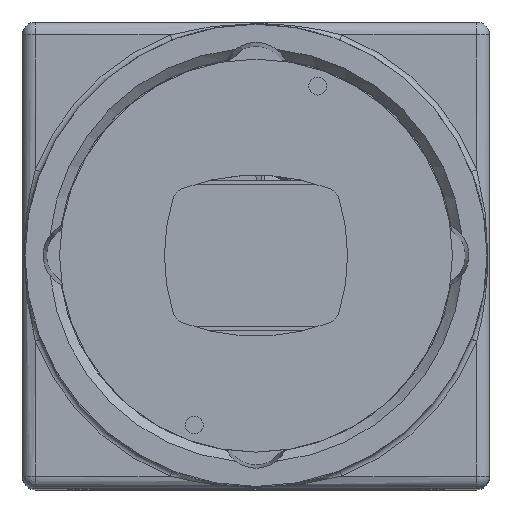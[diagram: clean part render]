
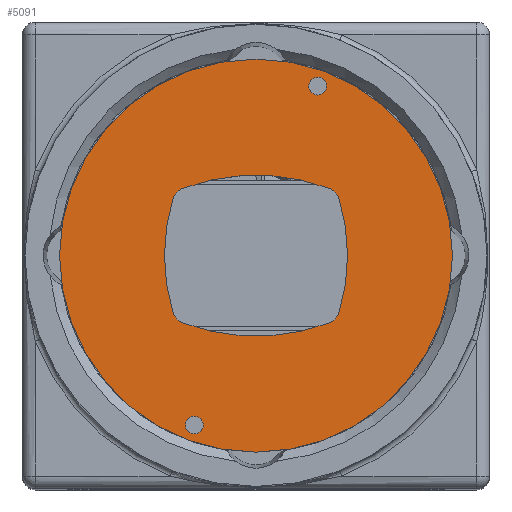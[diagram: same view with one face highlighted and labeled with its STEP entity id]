
A CAD part, top view. The second image highlights one B-rep face of the part: STEP entity #5091.
In plain terms, the highlighted planar face has unit normal (0, 0, 1).
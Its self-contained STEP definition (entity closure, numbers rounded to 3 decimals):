
#5091 = ADVANCED_FACE( '', ( #11079, #11080, #11081, #11082 ), #11083, .F. );
#11079 = FACE_BOUND( '', #20182, .T. );
#11080 = FACE_BOUND( '', #20183, .T. );
#11081 = FACE_BOUND( '', #20184, .T. );
#11082 = FACE_OUTER_BOUND( '', #20185, .T. );
#11083 = PLANE( '', #20186 );
#20182 = EDGE_LOOP( '', ( #32739 ) );
#20183 = EDGE_LOOP( '', ( #32740 ) );
#20184 = EDGE_LOOP( '', ( #32741, #32742, #32743, #32744, #32745, #32746, #32747, #32748 ) );
#20185 = EDGE_LOOP( '', ( #32749 ) );
#20186 = AXIS2_PLACEMENT_3D( '', #32750, #32751, #32752 );
#32739 = ORIENTED_EDGE( '', *, *, #39884, .T. );
#32740 = ORIENTED_EDGE( '', *, *, #40069, .T. );
#32741 = ORIENTED_EDGE( '', *, *, #38058, .T. );
#32742 = ORIENTED_EDGE( '', *, *, #38541, .T. );
#32743 = ORIENTED_EDGE( '', *, *, #37720, .T. );
#32744 = ORIENTED_EDGE( '', *, *, #38357, .T. );
#32745 = ORIENTED_EDGE( '', *, *, #39161, .T. );
#32746 = ORIENTED_EDGE( '', *, *, #40070, .T. );
#32747 = ORIENTED_EDGE( '', *, *, #40071, .T. );
#32748 = ORIENTED_EDGE( '', *, *, #40072, .T. );
#32749 = ORIENTED_EDGE( '', *, *, #39275, .F. );
#32750 = CARTESIAN_POINT( '', ( 1.907, 5.239, 5.8 ) );
#32751 = DIRECTION( '', ( 0., 0., -1. ) );
#32752 = DIRECTION( '', ( -1., 0., 0. ) );
#37720 = EDGE_CURVE( '', #43515, #43516, #43517, .T. );
#38058 = EDGE_CURVE( '', #44009, #44007, #44010, .T. );
#38357 = EDGE_CURVE( '', #43516, #44459, #44460, .T. );
#38541 = EDGE_CURVE( '', #44007, #43515, #44708, .T. );
#39161 = EDGE_CURVE( '', #44459, #45581, #45582, .T. );
#39275 = EDGE_CURVE( '', #45739, #45739, #45740, .T. );
#39884 = EDGE_CURVE( '', #46488, #46488, #46489, .T. );
#40069 = EDGE_CURVE( '', #46710, #46710, #46711, .T. );
#40070 = EDGE_CURVE( '', #45581, #46712, #46713, .T. );
#40071 = EDGE_CURVE( '', #46712, #46714, #46715, .T. );
#40072 = EDGE_CURVE( '', #46714, #44009, #46716, .T. );
#43515 = VERTEX_POINT( '', #52148 );
#43516 = VERTEX_POINT( '', #52149 );
#43517 = CIRCLE( '', #52150, 13. );
#44007 = VERTEX_POINT( '', #53012 );
#44009 = VERTEX_POINT( '', #53015 );
#44010 = CIRCLE( '', #53016, 12. );
#44459 = VERTEX_POINT( '', #53834 );
#44460 = CIRCLE( '', #53835, 1. );
#44708 = CIRCLE( '', #54189, 1. );
#45581 = VERTEX_POINT( '', #55435 );
#45582 = CIRCLE( '', #55436, 12. );
#45739 = VERTEX_POINT( '', #55654 );
#45740 = CIRCLE( '', #55655, 12.2 );
#46488 = VERTEX_POINT( '', #56810 );
#46489 = CIRCLE( '', #56811, 0.55 );
#46710 = VERTEX_POINT( '', #57107 );
#46711 = CIRCLE( '', #57108, 0.55 );
#46712 = VERTEX_POINT( '', #57109 );
#46713 = CIRCLE( '', #57110, 1. );
#46714 = VERTEX_POINT( '', #57111 );
#46715 = CIRCLE( '', #57112, 13. );
#46716 = CIRCLE( '', #57113, 1. );
#52148 = CARTESIAN_POINT( '', ( 4.548, -4.179, 5.8 ) );
#52149 = CARTESIAN_POINT( '', ( -4.548, -4.179, 5.8 ) );
#52150 = AXIS2_PLACEMENT_3D( '', #59881, #59882, #59883 );
#53012 = CARTESIAN_POINT( '', ( 5.153, -3.537, 5.8 ) );
#53015 = CARTESIAN_POINT( '', ( 5.153, 3.537, 5.8 ) );
#53016 = AXIS2_PLACEMENT_3D( '', #60252, #60253, #60254 );
#53834 = CARTESIAN_POINT( '', ( -5.153, -3.537, 5.8 ) );
#53835 = AXIS2_PLACEMENT_3D( '', #60560, #60561, #60562 );
#54189 = AXIS2_PLACEMENT_3D( '', #60757, #60758, #60759 );
#55435 = CARTESIAN_POINT( '', ( -5.153, 3.537, 5.8 ) );
#55436 = AXIS2_PLACEMENT_3D( '', #61527, #61528, #61529 );
#55654 = CARTESIAN_POINT( '', ( -12.2, 0., 5.8 ) );
#55655 = AXIS2_PLACEMENT_3D( '', #61663, #61664, #61665 );
#56810 = CARTESIAN_POINT( '', ( -3.831, -11.075, 5.8 ) );
#56811 = AXIS2_PLACEMENT_3D( '', #62221, #62222, #62223 );
#57107 = CARTESIAN_POINT( '', ( 3.831, 9.975, 5.8 ) );
#57108 = AXIS2_PLACEMENT_3D( '', #62370, #62371, #62372 );
#57109 = CARTESIAN_POINT( '', ( -4.548, 4.179, 5.8 ) );
#57110 = AXIS2_PLACEMENT_3D( '', #62373, #62374, #62375 );
#57111 = CARTESIAN_POINT( '', ( 4.548, 4.179, 5.8 ) );
#57112 = AXIS2_PLACEMENT_3D( '', #62376, #62377, #62378 );
#57113 = AXIS2_PLACEMENT_3D( '', #62379, #62380, #62381 );
#59881 = CARTESIAN_POINT( '', ( 0., 8., 5.8 ) );
#59882 = DIRECTION( '', ( 0., 0., -1. ) );
#59883 = DIRECTION( '', ( 1., 0., 0. ) );
#60252 = CARTESIAN_POINT( '', ( -6.314, 0., 5.8 ) );
#60253 = DIRECTION( '', ( 0., 0., -1. ) );
#60254 = DIRECTION( '', ( -1., 0., 0. ) );
#60560 = CARTESIAN_POINT( '', ( -4.198, -3.242, 5.8 ) );
#60561 = DIRECTION( '', ( 0., 0., -1. ) );
#60562 = DIRECTION( '', ( -1., 0., 0. ) );
#60757 = CARTESIAN_POINT( '', ( 4.198, -3.242, 5.8 ) );
#60758 = DIRECTION( '', ( 0., 0., -1. ) );
#60759 = DIRECTION( '', ( -1., 0., 0. ) );
#61527 = CARTESIAN_POINT( '', ( 6.314, 0., 5.8 ) );
#61528 = DIRECTION( '', ( 0., 0., -1. ) );
#61529 = DIRECTION( '', ( 1., 0., 0. ) );
#61663 = CARTESIAN_POINT( '', ( 0., 0., 5.8 ) );
#61664 = DIRECTION( '', ( 0., 0., -1. ) );
#61665 = DIRECTION( '', ( -1., 0., 0. ) );
#62221 = CARTESIAN_POINT( '', ( -3.831, -10.525, 5.8 ) );
#62222 = DIRECTION( '', ( 0., 0., -1. ) );
#62223 = DIRECTION( '', ( 0., -1., 0. ) );
#62370 = CARTESIAN_POINT( '', ( 3.831, 10.525, 5.8 ) );
#62371 = DIRECTION( '', ( 0., 0., -1. ) );
#62372 = DIRECTION( '', ( 0., -1., 0. ) );
#62373 = CARTESIAN_POINT( '', ( -4.198, 3.242, 5.8 ) );
#62374 = DIRECTION( '', ( 0., 0., -1. ) );
#62375 = DIRECTION( '', ( -1., 0., 0. ) );
#62376 = CARTESIAN_POINT( '', ( 0., -8., 5.8 ) );
#62377 = DIRECTION( '', ( 0., 0., -1. ) );
#62378 = DIRECTION( '', ( 1., 0., 0. ) );
#62379 = CARTESIAN_POINT( '', ( 4.198, 3.242, 5.8 ) );
#62380 = DIRECTION( '', ( 0., 0., -1. ) );
#62381 = DIRECTION( '', ( -1., 0., 0. ) );
